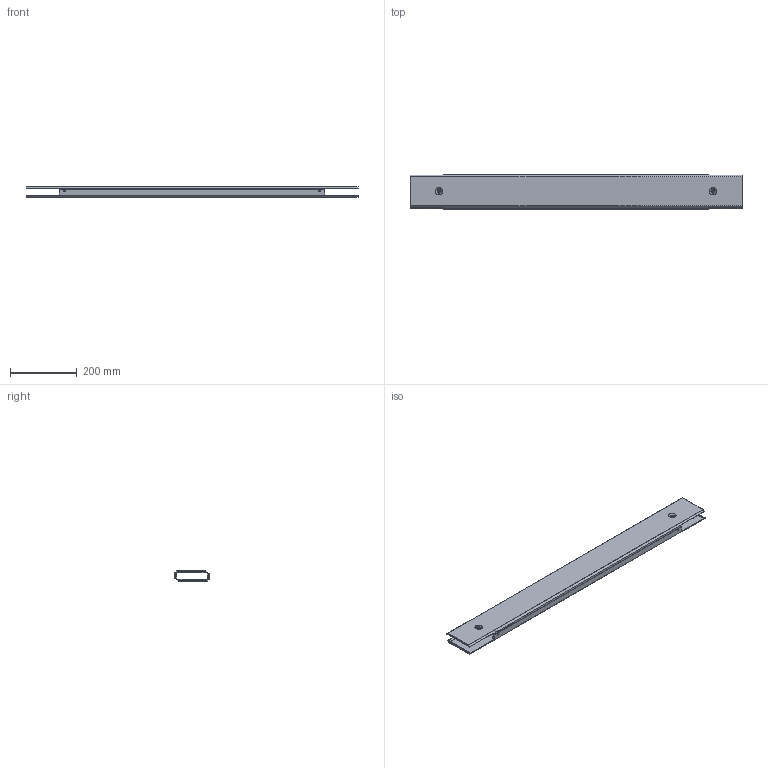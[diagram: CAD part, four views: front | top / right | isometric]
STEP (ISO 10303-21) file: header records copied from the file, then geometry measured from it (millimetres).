
FILE_DESCRIPTION (( 'STEP AP214' ), '1' );
FILE_NAME ('FO-00D-PC-010-100-7021 Êîìïëåêò ïàíåëè öîêîëÿ 100õ1000ìì RAL7021 (2 øò.êîìïë.).STEP', '2025-08-21T13:19:18', ( '' ), ( '' ), 'SwSTEP 2.0', 'SolidWorks 2023', '' );
FILE_SCHEMA (( 'AUTOMOTIVE_DESIGN' ));
Length unit declared in the file: millimetre
Products named in the file (2): FO-00D-PC-010-100-7021 Комплект панели цоколя 100х1000мм RAL7021 (2 шт.компл.); Панель цоколя 100х1000мм
Assembly tree (2 placements, depth 2):
  FO-00D-PC-010-100-7021 Комплект панели цоколя 100х1000мм RAL7021 (2 шт.компл.)
    Панель цоколя 100х1000мм  x2
Bounding box: 995 x 102.14 x 32.52 mm (x, y, z)
Volume: 363213 mm3; surface area: 525510.3 mm2
Topology: 2 solids, 2 shells, 116 faces, 304 edges, 200 vertices
Faces by surface type: plane 76, cylinder 24, cone 16
Entity records: 1871 total; most frequent: DIRECTION 318, CARTESIAN_POINT 315, ORIENTED_EDGE 304, EDGE_CURVE 152, LINE 112, VECTOR 112, AXIS2_PLACEMENT_3D 103, VERTEX_POINT 100
